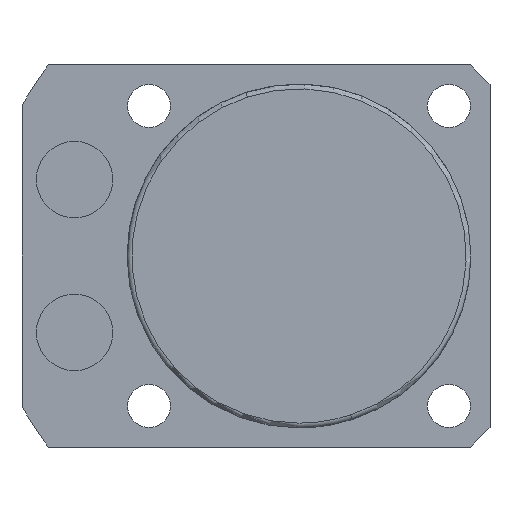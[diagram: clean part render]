
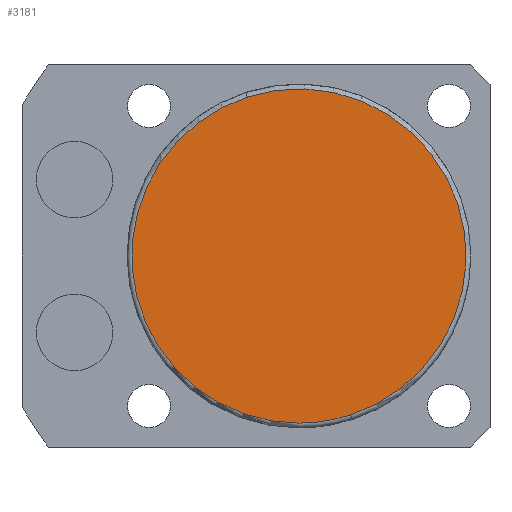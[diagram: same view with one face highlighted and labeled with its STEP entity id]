
A CAD part, front view. The second image highlights one B-rep face of the part: STEP entity #3181.
In plain terms, the highlighted planar face has unit normal (0, -1, 0).
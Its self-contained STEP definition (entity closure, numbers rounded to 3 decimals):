
#3147=CARTESIAN_POINT('',(0.0,-55.5,-17.5));
#3148=VERTEX_POINT('',#3147);
#3149=CARTESIAN_POINT('',(5.408,-55.5,-16.643));
#3150=VERTEX_POINT('',#3149);
#3151=CARTESIAN_POINT('',(0.0,-55.5,0.0));
#3152=DIRECTION('',(0.0,-1.0,0.0));
#3153=DIRECTION('',(0.0,0.0,-1.0));
#3154=AXIS2_PLACEMENT_3D('',#3151,#3152,#3153);
#3155=CIRCLE('',#3154,17.5);
#3156=EDGE_CURVE('no 2305',#3148,#3150,#3155,.T.);
#3157=ORIENTED_EDGE('',*,*,#3156,.T.);
#3158=CARTESIAN_POINT('',(-5.408,-55.5,16.643));
#3159=VERTEX_POINT('',#3158);
#3160=CARTESIAN_POINT('',(0.0,-55.5,0.0));
#3161=DIRECTION('',(0.0,-1.0,0.0));
#3162=DIRECTION('',(0.0,0.0,-1.0));
#3163=AXIS2_PLACEMENT_3D('',#3160,#3161,#3162);
#3164=CIRCLE('',#3163,17.5);
#3165=EDGE_CURVE('no 2311',#3150,#3159,#3164,.T.);
#3166=ORIENTED_EDGE('',*,*,#3165,.T.);
#3167=CARTESIAN_POINT('',(0.0,-55.5,0.0));
#3168=DIRECTION('',(0.0,-1.0,0.0));
#3169=DIRECTION('',(0.0,0.0,-1.0));
#3170=AXIS2_PLACEMENT_3D('',#3167,#3168,#3169);
#3171=CIRCLE('',#3170,17.5);
#3172=EDGE_CURVE('no 2315',#3159,#3148,#3171,.T.);
#3173=ORIENTED_EDGE('',*,*,#3172,.T.);
#3174=EDGE_LOOP('',(#3157,#3166,#3173));
#3175=FACE_OUTER_BOUND('',#3174,.T.);
#3176=CARTESIAN_POINT('',(0.0,-55.5,0.0));
#3177=DIRECTION('',(0.0,-1.0,0.0));
#3178=DIRECTION('',(0.0,0.0,-1.0));
#3179=AXIS2_PLACEMENT_3D('',#3176,#3177,#3178);
#3180=PLANE('',#3179);
#3181=ADVANCED_FACE('no 2296',(#3175),#3180,.T.);
